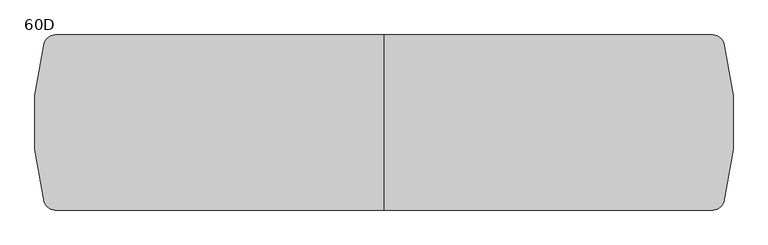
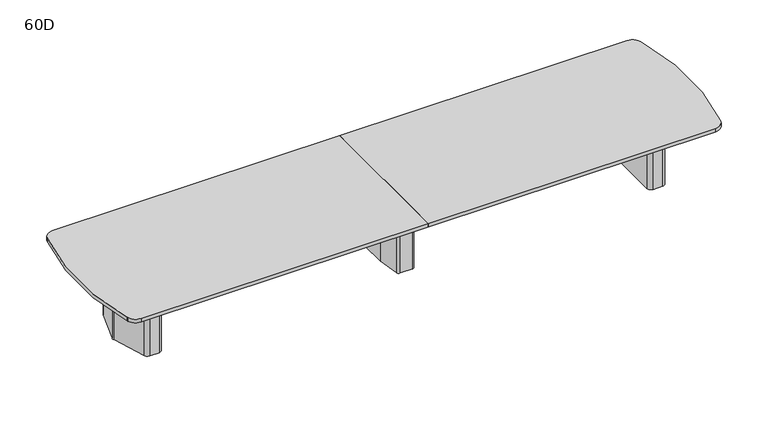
"""IFC4 building model written with IfcOpenShell, lengths in millimetres: furniture geometry, Coalesse_AM_Table_Conference_ETable2_SoftRadiused_20ft_ThreeBase : 60D."""

from ifc_helpers import new_model, si_unit, point, frame, frame_2d, origin, origin_with_axes, place, context, project, spatial, polyline, circle_curve, trimmed, segment, composite_curve, outline, extrude, source, transform, mapped, element, save
from ifc_brep_helpers import plane_surface, cylinder_surface, revolved_surface, advanced_brep


def furniture_60d_b1780d50(model_context):
    return source(origin(), model_context, "Body", "SolidModel", [
        advanced_brep(
        [(61.0357815, 381.0, 698.5), (-61.0357815, 381.0, 698.5), (-86.1885994, 359.1349332, 698.5), (-117.2278179, 138.2753661, 698.5), (-117.475, 134.740433, 698.5), (-117.475, -134.7404196, 698.5), (-117.2278463, -138.2751502, 698.5), (-86.1904395, -359.1347306, 698.5), (-61.0375932, -381.0, 698.5), (61.0375932, -381.0, 698.5), (86.1904395, -359.1347306, 698.5), (117.2278463, -138.2751502, 698.5), (117.475, -134.7404196, 698.5), (117.475, 134.740433, 698.5), (117.2278179, 138.2753661, 698.5), (86.1885994, 359.1349332, 698.5), (25.4, 314.325, 698.5), (50.8, 288.925, 698.5), (50.8, -288.925, 698.5), (25.4, -314.325, 698.5), (-25.4, -314.325, 698.5), (-50.8, -288.925, 698.5), (-50.8, 288.925, 698.5), (-25.4, 314.325, 698.5), (61.0357815, 381.0, 3.175), (86.1885994, 359.1349332, 3.175), (117.2278179, 138.2753661, 3.175), (117.475, 134.740433, 3.175), (117.475, -134.7404196, 3.175), (117.2278463, -138.2751502, 3.175), (86.1904395, -359.1347306, 3.175), (61.0375932, -381.0, 3.175), (-61.0375932, -381.0, 3.175), (-86.1904395, -359.1347306, 3.175), (-117.2278463, -138.2751502, 3.175), (-117.475, -134.7404196, 3.175), (-117.475, 134.740433, 3.175), (-117.2278179, 138.2753661, 3.175), (-86.1885994, 359.1349332, 3.175), (-61.0357815, 381.0, 3.175), (25.4, 327.025, 3.175), (-25.4, 327.025, 3.175), (-63.5, 288.925, 3.175), (-63.5, -288.925, 3.175), (-25.4, -327.025, 3.175), (25.4, -327.025, 3.175), (63.5, -288.925, 3.175), (63.5, 288.925, 3.175), (25.4, 314.325, 3.175), (50.8, 288.925, 3.175), (50.8, -288.925, 3.175), (25.4, -314.325, 3.175), (-25.4, -314.325, 3.175), (-50.8, -288.925, 3.175), (-50.8, 288.925, 3.175), (-25.4, 314.325, 3.175), (25.4, 327.025, 0.0), (63.5, 288.925, 0.0), (63.5, -288.925, 0.0), (25.4, -327.025, 0.0), (-25.4, -327.025, 0.0), (-63.5, -288.925, 0.0), (-63.5, 288.925, 0.0), (-25.4, 327.025, 0.0)],
        [
            (0, 1),
            (1, 2, circle_curve(frame((-61.0357815, 355.6, 698.5), z_axis=(0.0, 0.0, 1.0), x_axis=(1.0, 0.0, 0.0)), 25.4)),
            (2, 3),
            (3, 4, circle_curve(frame((-92.075, 134.740433, 698.5), z_axis=(0.0, 0.0, 1.0), x_axis=(1.0, 0.0, 0.0)), 25.4)),
            (4, 5),
            (5, 6, circle_curve(frame((-92.075, -134.7404196, 698.5), z_axis=(0.0, 0.0, 1.0), x_axis=(1.0, 0.0, 0.0)), 25.4)),
            (6, 7),
            (7, 8, circle_curve(frame((-61.0375932, -355.6, 698.5), z_axis=(0.0, 0.0, 1.0), x_axis=(1.0, 0.0, 0.0)), 25.4)),
            (8, 9),
            (9, 10, circle_curve(frame((61.0375932, -355.6, 698.5), z_axis=(0.0, 0.0, 1.0), x_axis=(1.0, 0.0, 0.0)), 25.4)),
            (10, 11),
            (11, 12, circle_curve(frame((92.075, -134.7404196, 698.5), z_axis=(0.0, 0.0, 1.0), x_axis=(1.0, 0.0, 0.0)), 25.4)),
            (12, 13),
            (13, 14, circle_curve(frame((92.075, 134.740433, 698.5), z_axis=(0.0, 0.0, 1.0), x_axis=(1.0, 0.0, 0.0)), 25.4)),
            (14, 15),
            (15, 0, circle_curve(frame((61.0357815, 355.6, 698.5), z_axis=(0.0, 0.0, 1.0), x_axis=(1.0, 0.0, 0.0)), 25.4)),
            (16, 17, circle_curve(frame((25.4, 288.925, 698.5), z_axis=(0.0, 0.0, -1.0), x_axis=(1.0, 0.0, 0.0)), 25.4)),
            (17, 18),
            (18, 19, circle_curve(frame((25.4, -288.925, 698.5), z_axis=(0.0, 0.0, -1.0), x_axis=(1.0, 0.0, 0.0)), 25.4)),
            (19, 20),
            (20, 21, circle_curve(frame((-25.4, -288.925, 698.5), z_axis=(0.0, 0.0, -1.0), x_axis=(1.0, 0.0, 0.0)), 25.4)),
            (21, 22),
            (22, 23, circle_curve(frame((-25.4, 288.925, 698.5), z_axis=(0.0, 0.0, -1.0), x_axis=(1.0, 0.0, 0.0)), 25.4)),
            (23, 16),
            (24, 25, circle_curve(frame((61.0357815, 355.6, 3.175), z_axis=(0.0, 0.0, -1.0), x_axis=(1.0, 0.0, 0.0)), 25.4)),
            (25, 26),
            (26, 27, circle_curve(frame((92.075, 134.740433, 3.175), z_axis=(0.0, 0.0, -1.0), x_axis=(1.0, 0.0, 0.0)), 25.4)),
            (27, 28),
            (28, 29, circle_curve(frame((92.075, -134.7404196, 3.175), z_axis=(0.0, 0.0, -1.0), x_axis=(1.0, 0.0, 0.0)), 25.4)),
            (29, 30),
            (30, 31, circle_curve(frame((61.0375932, -355.6, 3.175), z_axis=(0.0, 0.0, -1.0), x_axis=(1.0, 0.0, 0.0)), 25.4)),
            (31, 32),
            (32, 33, circle_curve(frame((-61.0375932, -355.6, 3.175), z_axis=(0.0, 0.0, -1.0), x_axis=(1.0, 0.0, 0.0)), 25.4)),
            (33, 34),
            (34, 35, circle_curve(frame((-92.075, -134.7404196, 3.175), z_axis=(0.0, 0.0, -1.0), x_axis=(1.0, 0.0, 0.0)), 25.4)),
            (35, 36),
            (36, 37, circle_curve(frame((-92.075, 134.740433, 3.175), z_axis=(0.0, 0.0, -1.0), x_axis=(1.0, 0.0, 0.0)), 25.4)),
            (37, 38),
            (38, 39, circle_curve(frame((-61.0357815, 355.6, 3.175), z_axis=(0.0, 0.0, -1.0), x_axis=(1.0, 0.0, 0.0)), 25.4)),
            (39, 24),
            (40, 41),
            (41, 42, circle_curve(frame((-25.4, 288.925, 3.175), z_axis=(0.0, 0.0, 1.0), x_axis=(1.0, 0.0, 0.0)), 38.1)),
            (42, 43),
            (43, 44, circle_curve(frame((-25.4, -288.925, 3.175), z_axis=(0.0, 0.0, 1.0), x_axis=(1.0, 0.0, 0.0)), 38.1)),
            (44, 45),
            (45, 46, circle_curve(frame((25.4, -288.925, 3.175), z_axis=(0.0, 0.0, 1.0), x_axis=(1.0, 0.0, 0.0)), 38.1)),
            (46, 47),
            (47, 40, circle_curve(frame((25.4, 288.925, 3.175), z_axis=(0.0, 0.0, 1.0), x_axis=(1.0, 0.0, 0.0)), 38.1)),
            (0, 24),
            (39, 1),
            (38, 2),
            (37, 3),
            (36, 4),
            (35, 5),
            (34, 6),
            (33, 7),
            (32, 8),
            (31, 9),
            (30, 10),
            (29, 11),
            (28, 12),
            (27, 13),
            (26, 14),
            (25, 15),
            (16, 48),
            (48, 49, circle_curve(frame((25.4, 288.925, 3.175), z_axis=(0.0, 0.0, -1.0), x_axis=(1.0, 0.0, 0.0)), 25.4)),
            (49, 17),
            (49, 50),
            (50, 18),
            (50, 51, circle_curve(frame((25.4, -288.925, 3.175), z_axis=(0.0, 0.0, -1.0), x_axis=(1.0, 0.0, 0.0)), 25.4)),
            (51, 19),
            (51, 52),
            (52, 20),
            (52, 53, circle_curve(frame((-25.4, -288.925, 3.175), z_axis=(0.0, 0.0, -1.0), x_axis=(1.0, 0.0, 0.0)), 25.4)),
            (53, 21),
            (53, 54),
            (54, 22),
            (54, 55, circle_curve(frame((-25.4, 288.925, 3.175), z_axis=(0.0, 0.0, -1.0), x_axis=(1.0, 0.0, 0.0)), 25.4)),
            (55, 23),
            (55, 48),
            (56, 57, circle_curve(frame((25.4, 288.925, 0.0), z_axis=(0.0, 0.0, -1.0), x_axis=(1.0, 0.0, 0.0)), 38.1)),
            (57, 58),
            (58, 59, circle_curve(frame((25.4, -288.925, 0.0), z_axis=(0.0, 0.0, -1.0), x_axis=(1.0, 0.0, 0.0)), 38.1)),
            (59, 60),
            (60, 61, circle_curve(frame((-25.4, -288.925, 0.0), z_axis=(0.0, 0.0, -1.0), x_axis=(1.0, 0.0, 0.0)), 38.1)),
            (61, 62),
            (62, 63, circle_curve(frame((-25.4, 288.925, 0.0), z_axis=(0.0, 0.0, -1.0), x_axis=(1.0, 0.0, 0.0)), 38.1)),
            (63, 56),
            (63, 41),
            (40, 56),
            (62, 42),
            (61, 43),
            (60, 44),
            (59, 45),
            (58, 46),
            (57, 47),
        ],
        [
            plane_surface(frame((-1524.0, 381.0, 698.5), z_axis=(0.0, 0.0, 1.0), x_axis=(-1.0, 0.0, 0.0))),
            plane_surface(frame((-1524.0, 381.0, 3.175), z_axis=(0.0, 0.0, -1.0), x_axis=(1.0, 0.0, 0.0))),
            plane_surface(frame((61.0357815, 381.0, 698.5), z_axis=(0.0, 1.0, 0.0), x_axis=(0.0, 0.0, -1.0))),
            cylinder_surface(frame((-61.0357815, 355.6, 3.175), z_axis=(0.0, 0.0, 1.0), x_axis=(1.0, 0.0, 0.0)), 25.4),
            plane_surface(frame((-86.1885994, 359.1349332, 698.5), z_axis=(-0.9902684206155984, 0.13917059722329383, 0.0), x_axis=(0.0, 0.0, -1.0))),
            cylinder_surface(frame((-92.075, 134.740433, 3.175), z_axis=(0.0, 0.0, 1.0), x_axis=(1.0, 0.0, 0.0)), 25.4),
            plane_surface(frame((-117.475, 134.740433, 698.5), z_axis=(-1.0, 0.0, 0.0), x_axis=(0.0, 0.0, -1.0))),
            cylinder_surface(frame((-92.075, -134.7404196, 3.175), z_axis=(0.0, 0.0, 1.0), x_axis=(1.0, 0.0, 0.0)), 25.4),
            plane_surface(frame((-117.2278463, -138.2751502, 698.5), z_axis=(-0.9902695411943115, -0.1391626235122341, 0.0), x_axis=(0.0, 0.0, -1.0))),
            cylinder_surface(frame((-61.0375932, -355.6, 3.175), z_axis=(0.0, 0.0, 1.0), x_axis=(1.0, 0.0, 0.0)), 25.4),
            plane_surface(frame((-61.0375932, -381.0, 698.5), z_axis=(0.0, -1.0, 0.0), x_axis=(0.0, 0.0, -1.0))),
            cylinder_surface(frame((61.0375932, -355.6, 3.175), z_axis=(0.0, 0.0, 1.0), x_axis=(1.0, 0.0, 0.0)), 25.4),
            plane_surface(frame((86.1904395, -359.1347306, 698.5), z_axis=(0.9902695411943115, -0.1391626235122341, 0.0), x_axis=(0.0, 0.0, -1.0))),
            cylinder_surface(frame((92.075, -134.7404196, 3.175), z_axis=(0.0, 0.0, 1.0), x_axis=(1.0, 0.0, 0.0)), 25.4),
            plane_surface(frame((117.475, -134.7404196, 698.5), z_axis=(1.0, 0.0, 0.0), x_axis=(0.0, 0.0, -1.0))),
            cylinder_surface(frame((92.075, 134.740433, 3.175), z_axis=(0.0, 0.0, 1.0), x_axis=(1.0, 0.0, 0.0)), 25.4),
            plane_surface(frame((117.2278179, 138.2753661, 698.5), z_axis=(0.9902684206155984, 0.13917059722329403, 0.0), x_axis=(0.0, 0.0, -1.0))),
            cylinder_surface(frame((61.0357815, 355.6, 3.175), z_axis=(0.0, 0.0, 1.0), x_axis=(1.0, 0.0, 0.0)), 25.4),
            revolved_surface(polyline([(50.8, 288.925, 3.175), (50.8, 288.925, 698.5)]), (25.4, 288.925, 0.0), (0.0, 0.0, -1.0)),
            plane_surface(frame((50.8, 288.925, 698.5), z_axis=(-1.0, 0.0, 0.0), x_axis=(0.0, 0.0, -1.0))),
            revolved_surface(polyline([(50.8, -288.925, 3.175), (50.8, -288.925, 698.5)]), (25.4, -288.925, 0.0), (0.0, 0.0, -1.0)),
            plane_surface(frame((25.4, -314.325, 698.5), z_axis=(0.0, 1.0, 0.0), x_axis=(0.0, 0.0, -1.0))),
            revolved_surface(polyline([(0.0, -288.925, 3.175), (0.0, -288.925, 698.5)]), (-25.4, -288.925, 0.0), (0.0, 0.0, -1.0)),
            plane_surface(frame((-50.8, -288.925, 698.5), z_axis=(1.0, 0.0, 0.0), x_axis=(0.0, 0.0, -1.0))),
            revolved_surface(polyline([(0.0, 288.925, 3.175), (0.0, 288.925, 698.5)]), (-25.4, 288.925, 0.0), (0.0, 0.0, -1.0)),
            plane_surface(frame((-25.4, 314.325, 698.5), z_axis=(0.0, -1.0, 0.0), x_axis=(0.0, 0.0, -1.0))),
            plane_surface(frame((-50.8, 327.025, 3.175), z_axis=(0.0, 0.0, 1.0), x_axis=(-1.0, 0.0, 0.0))),
            plane_surface(frame((-50.8, 327.025, 0.0), z_axis=(0.0, 0.0, -1.0), x_axis=(1.0, 0.0, 0.0))),
            plane_surface(frame((25.4, 327.025, 3.175), z_axis=(0.0, 1.0, 0.0), x_axis=(0.0, 0.0, -1.0))),
            cylinder_surface(frame((-25.4, 288.925, 0.0), z_axis=(0.0, 0.0, 1.0), x_axis=(1.0, 0.0, 0.0)), 38.1),
            plane_surface(frame((-63.5, 288.925, 3.175), z_axis=(-1.0, 0.0, 0.0), x_axis=(0.0, 0.0, -1.0))),
            cylinder_surface(frame((-25.4, -288.925, 0.0), z_axis=(0.0, 0.0, 1.0), x_axis=(1.0, 0.0, 0.0)), 38.1),
            plane_surface(frame((-25.4, -327.025, 3.175), z_axis=(0.0, -1.0, 0.0), x_axis=(0.0, 0.0, -1.0))),
            cylinder_surface(frame((25.4, -288.925, 0.0), z_axis=(0.0, 0.0, 1.0), x_axis=(1.0, 0.0, 0.0)), 38.1),
            plane_surface(frame((63.5, -288.925, 3.175), z_axis=(1.0, 0.0, 0.0), x_axis=(0.0, 0.0, -1.0))),
            cylinder_surface(frame((25.4, 288.925, 0.0), z_axis=(0.0, 0.0, 1.0), x_axis=(1.0, 0.0, 0.0)), 38.1),
        ],
        [
            (0, [[1, 2, 3, 4, 5, 6, 7, 8, 9, 10, 11, 12, 13, 14, 15, 16], [17, 18, 19, 20, 21, 22, 23, 24]]),
            (1, [[25, 26, 27, 28, 29, 30, 31, 32, 33, 34, 35, 36, 37, 38, 39, 40], [41, 42, 43, 44, 45, 46, 47, 48]]),
            (2, [[-1, 49, -40, 50]]),
            (3, [[-2, -50, -39, 51]]),
            (4, [[-3, -51, -38, 52]]),
            (5, [[-4, -52, -37, 53]]),
            (6, [[-5, -53, -36, 54]]),
            (7, [[-6, -54, -35, 55]]),
            (8, [[-7, -55, -34, 56]]),
            (9, [[-8, -56, -33, 57]]),
            (10, [[-9, -57, -32, 58]]),
            (11, [[-10, -58, -31, 59]]),
            (12, [[-11, -59, -30, 60]]),
            (13, [[-12, -60, -29, 61]]),
            (14, [[-13, -61, -28, 62]]),
            (15, [[-14, -62, -27, 63]]),
            (16, [[-15, -63, -26, 64]]),
            (17, [[-16, -64, -25, -49]]),
            (18, [[-17, 65, 66, 67]]),
            (19, [[-18, -67, 68, 69]]),
            (20, [[-19, -69, 70, 71]]),
            (21, [[-20, -71, 72, 73]]),
            (22, [[-21, -73, 74, 75]]),
            (23, [[-22, -75, 76, 77]]),
            (24, [[-23, -77, 78, 79]]),
            (25, [[-24, -79, 80, -65]]),
            (26, [[-66, -80, -78, -76, -74, -72, -70, -68]]),
            (27, [[81, 82, 83, 84, 85, 86, 87, 88]]),
            (28, [[-88, 89, -41, 90]]),
            (29, [[-87, 91, -42, -89]]),
            (30, [[-86, 92, -43, -91]]),
            (31, [[-85, 93, -44, -92]]),
            (32, [[-84, 94, -45, -93]]),
            (33, [[-83, 95, -46, -94]]),
            (34, [[-82, 96, -47, -95]]),
            (35, [[-81, -90, -48, -96]]),
        ],
    ),
        extrude(outline(composite_curve([segment(polyline([(2646.3625, 101.7236478), (2646.3625, -97.2761514)]), True, "CONTINUOUS"), segment(trimmed(circle_curve(frame_2d((2608.2625, -97.2761514)), 38.1), [point((2646.3625, -97.2761514))], [point((2644.5991129, -108.7330515))], False, "CARTESIAN"), True, "CONTINUOUS"), segment(polyline([(2644.5991129, -108.7330515), (2586.1745591, -294.0319001)]), True, "CONTINUOUS"), segment(trimmed(circle_curve(frame_2d((2549.8379462, -282.575)), 38.1), [point((2586.1745591, -294.0319001))], [point((2549.8379462, -320.675))], False, "CARTESIAN"), True, "CONTINUOUS"), segment(polyline([(2549.8379462, -320.675), (2482.85, -320.675)]), True, "CONTINUOUS"), segment(trimmed(circle_curve(frame_2d((2482.85, -282.575)), 38.1), [point((2482.85, -320.675))], [point((2444.75, -282.575))], False, "CARTESIAN"), True, "CONTINUOUS"), segment(polyline([(2444.75, -282.575), (2444.75, 282.575)]), True, "CONTINUOUS"), segment(trimmed(circle_curve(frame_2d((2482.85, 282.575)), 38.1), [point((2444.75, 282.575))], [point((2482.85, 320.675))], False, "CARTESIAN"), True, "CONTINUOUS"), segment(polyline([(2482.85, 320.675), (2553.5873998, 320.675)]), True, "CONTINUOUS"), segment(trimmed(circle_curve(frame_2d((2553.5873998, 282.575)), 38.1), [point((2553.5873998, 320.675))], [point((2590.0572049, 293.6005756))], False, "CARTESIAN"), True, "CONTINUOUS"), segment(polyline([(2590.0572049, 293.6005756), (2644.7323051, 112.7492234)]), True, "CONTINUOUS"), segment(trimmed(circle_curve(frame_2d((2608.2625, 101.7236478)), 38.1), [point((2644.7323051, 112.7492234))], [point((2646.3625, 101.7236478))], False, "CARTESIAN"), True, "CONTINUOUS")], self_intersect=False)), origin_with_axes(), (0.0, 0.0, 1.0), 3.175),
        extrude(outline(composite_curve([segment(polyline([(2466.975, 381.0), (2555.1221663, 381.0)]), True, "CONTINUOUS"), segment(trimmed(circle_curve(frame_2d((2555.1221663, 339.725)), 41.275), [point((2555.1221663, 381.0))], [point((2594.4868303, 352.1366418))], False, "CARTESIAN"), True, "CONTINUOUS"), segment(polyline([(2594.4868303, 352.1366418), (2701.6018053, 12.4116418)]), True, "CONTINUOUS"), segment(trimmed(circle_curve(frame_2d((2662.2371413, 0.0)), 41.275), [point((2701.6018053, 12.4116418))], [point((2701.6018053, -12.4116418))], False, "CARTESIAN"), True, "CONTINUOUS"), segment(polyline([(2701.6018053, -12.4116418), (2594.4868303, -352.1366418)]), True, "CONTINUOUS"), segment(trimmed(circle_curve(frame_2d((2555.1221663, -339.725)), 41.275), [point((2594.4868303, -352.1366418))], [point((2555.1221663, -381.0))], False, "CARTESIAN"), True, "CONTINUOUS"), segment(polyline([(2555.1221663, -381.0), (2460.625, -381.0)]), True, "CONTINUOUS"), segment(trimmed(circle_curve(frame_2d((2460.625, -339.725)), 41.275), [point((2460.625, -381.0))], [point((2419.35, -339.725))], False, "CARTESIAN"), True, "CONTINUOUS"), segment(polyline([(2419.35, -339.725), (2419.35, 333.375)]), True, "CONTINUOUS"), segment(trimmed(circle_curve(frame_2d((2466.975, 333.375)), 47.625), [point((2419.35, 333.375))], [point((2466.975, 381.0))], False, "CARTESIAN"), True, "CONTINUOUS")], self_intersect=False), holes=[composite_curve([segment(trimmed(circle_curve(frame_2d((2482.85, -282.575)), 25.4), [point((2457.45, -282.575))], [point((2482.85, -307.975))], True, "CARTESIAN"), True, "CONTINUOUS"), segment(polyline([(2482.85, -307.975), (2549.8379462, -307.975)]), True, "CONTINUOUS"), segment(trimmed(circle_curve(frame_2d((2549.8379462, -282.575)), 25.4), [point((2549.8379462, -307.975))], [point((2574.0623548, -290.2129334))], True, "CARTESIAN"), True, "CONTINUOUS"), segment(polyline([(2574.0623548, -290.2129334), (2632.4869086, -104.9140848)]), True, "CONTINUOUS"), segment(trimmed(circle_curve(frame_2d((2608.2625, -97.2761514)), 25.4), [point((2632.4869086, -104.9140848))], [point((2633.6625, -97.2761514))], True, "CARTESIAN"), True, "CONTINUOUS"), segment(polyline([(2633.6625, -97.2761514), (2633.6625, 101.7236478)]), True, "CONTINUOUS"), segment(trimmed(circle_curve(frame_2d((2608.2625, 101.7236478)), 25.4), [point((2633.6625, 101.7236478))], [point((2632.5757034, 109.0740316))], True, "CARTESIAN"), True, "CONTINUOUS"), segment(polyline([(2632.5757034, 109.0740316), (2577.9006032, 289.9253837)]), True, "CONTINUOUS"), segment(trimmed(circle_curve(frame_2d((2553.5873998, 282.575)), 25.4), [point((2577.9006032, 289.9253837))], [point((2553.5873998, 307.975))], True, "CARTESIAN"), True, "CONTINUOUS"), segment(polyline([(2553.5873998, 307.975), (2482.85, 307.975)]), True, "CONTINUOUS"), segment(trimmed(circle_curve(frame_2d((2482.85, 282.575)), 25.4), [point((2482.85, 307.975))], [point((2457.45, 282.575))], True, "CARTESIAN"), True, "CONTINUOUS"), segment(polyline([(2457.45, 282.575), (2457.45, -282.575)]), True, "CONTINUOUS")], self_intersect=False)]), frame((0.0, 0.0, 3.175), z_axis=(0.0, 0.0, 1.0), x_axis=(1.0, 0.0, 0.0)), (0.0, 0.0, 1.0), 695.325),
        extrude(outline(composite_curve([segment(trimmed(circle_curve(frame_2d((-2608.2625, 101.7236478)), 38.1), [point((-2646.3625, 101.7236478))], [point((-2644.7323051, 112.7492234))], False, "CARTESIAN"), True, "CONTINUOUS"), segment(polyline([(-2644.7323051, 112.7492234), (-2590.0572049, 293.6005756)]), True, "CONTINUOUS"), segment(trimmed(circle_curve(frame_2d((-2553.5873998, 282.575)), 38.1), [point((-2590.0572049, 293.6005756))], [point((-2553.5873998, 320.675))], False, "CARTESIAN"), True, "CONTINUOUS"), segment(polyline([(-2553.5873998, 320.675), (-2482.85, 320.675)]), True, "CONTINUOUS"), segment(trimmed(circle_curve(frame_2d((-2482.85, 282.575)), 38.1), [point((-2482.85, 320.675))], [point((-2444.75, 282.575))], False, "CARTESIAN"), True, "CONTINUOUS"), segment(polyline([(-2444.75, 282.575), (-2444.75, -282.575)]), True, "CONTINUOUS"), segment(trimmed(circle_curve(frame_2d((-2482.85, -282.575)), 38.1), [point((-2444.75, -282.575))], [point((-2482.85, -320.675))], False, "CARTESIAN"), True, "CONTINUOUS"), segment(polyline([(-2482.85, -320.675), (-2549.8379462, -320.675)]), True, "CONTINUOUS"), segment(trimmed(circle_curve(frame_2d((-2549.8379462, -282.575)), 38.1), [point((-2549.8379462, -320.675))], [point((-2586.1745591, -294.0319001))], False, "CARTESIAN"), True, "CONTINUOUS"), segment(polyline([(-2586.1745591, -294.0319001), (-2644.5991129, -108.7330515)]), True, "CONTINUOUS"), segment(trimmed(circle_curve(frame_2d((-2608.2625, -97.2761514)), 38.1), [point((-2644.5991129, -108.7330515))], [point((-2646.3625, -97.2761514))], False, "CARTESIAN"), True, "CONTINUOUS"), segment(polyline([(-2646.3625, -97.2761514), (-2646.3625, 101.7236478)]), True, "CONTINUOUS")], self_intersect=False)), origin_with_axes(), (0.0, 0.0, 1.0), 3.175),
        extrude(outline(composite_curve([segment(trimmed(circle_curve(frame_2d((-2466.975, 333.375)), 47.625), [point((-2466.975, 381.0))], [point((-2419.35, 333.375))], False, "CARTESIAN"), True, "CONTINUOUS"), segment(polyline([(-2419.35, 333.375), (-2419.35, -339.725)]), True, "CONTINUOUS"), segment(trimmed(circle_curve(frame_2d((-2460.625, -339.725)), 41.275), [point((-2419.35, -339.725))], [point((-2460.625, -381.0))], False, "CARTESIAN"), True, "CONTINUOUS"), segment(polyline([(-2460.625, -381.0), (-2555.1221663, -381.0)]), True, "CONTINUOUS"), segment(trimmed(circle_curve(frame_2d((-2555.1221663, -339.725)), 41.275), [point((-2555.1221663, -381.0))], [point((-2594.4868303, -352.1366418))], False, "CARTESIAN"), True, "CONTINUOUS"), segment(polyline([(-2594.4868303, -352.1366418), (-2701.6018053, -12.4116418)]), True, "CONTINUOUS"), segment(trimmed(circle_curve(frame_2d((-2662.2371413, 0.0)), 41.275), [point((-2701.6018053, -12.4116418))], [point((-2701.6018053, 12.4116418))], False, "CARTESIAN"), True, "CONTINUOUS"), segment(polyline([(-2701.6018053, 12.4116418), (-2594.4868303, 352.1366418)]), True, "CONTINUOUS"), segment(trimmed(circle_curve(frame_2d((-2555.1221663, 339.725)), 41.275), [point((-2594.4868303, 352.1366418))], [point((-2555.1221663, 381.0))], False, "CARTESIAN"), True, "CONTINUOUS"), segment(polyline([(-2555.1221663, 381.0), (-2466.975, 381.0)]), True, "CONTINUOUS")], self_intersect=False), holes=[composite_curve([segment(polyline([(-2457.45, -282.575), (-2457.45, 282.575)]), True, "CONTINUOUS"), segment(trimmed(circle_curve(frame_2d((-2482.85, 282.575)), 25.4), [point((-2457.45, 282.575))], [point((-2482.85, 307.975))], True, "CARTESIAN"), True, "CONTINUOUS"), segment(polyline([(-2482.85, 307.975), (-2553.5873998, 307.975)]), True, "CONTINUOUS"), segment(trimmed(circle_curve(frame_2d((-2553.5873998, 282.575)), 25.4), [point((-2553.5873998, 307.975))], [point((-2577.9006032, 289.9253837))], True, "CARTESIAN"), True, "CONTINUOUS"), segment(polyline([(-2577.9006032, 289.9253837), (-2632.5757034, 109.0740316)]), True, "CONTINUOUS"), segment(trimmed(circle_curve(frame_2d((-2608.2625, 101.7236478)), 25.4), [point((-2632.5757034, 109.0740316))], [point((-2633.6625, 101.7236478))], True, "CARTESIAN"), True, "CONTINUOUS"), segment(polyline([(-2633.6625, 101.7236478), (-2633.6625, -97.2761514)]), True, "CONTINUOUS"), segment(trimmed(circle_curve(frame_2d((-2608.2625, -97.2761514)), 25.4), [point((-2633.6625, -97.2761514))], [point((-2632.4869086, -104.9140848))], True, "CARTESIAN"), True, "CONTINUOUS"), segment(polyline([(-2632.4869086, -104.9140848), (-2574.0623548, -290.2129334)]), True, "CONTINUOUS"), segment(trimmed(circle_curve(frame_2d((-2549.8379462, -282.575)), 25.4), [point((-2574.0623548, -290.2129334))], [point((-2549.8379462, -307.975))], True, "CARTESIAN"), True, "CONTINUOUS"), segment(polyline([(-2549.8379462, -307.975), (-2482.85, -307.975)]), True, "CONTINUOUS"), segment(trimmed(circle_curve(frame_2d((-2482.85, -282.575)), 25.4), [point((-2482.85, -307.975))], [point((-2457.45, -282.575))], True, "CARTESIAN"), True, "CONTINUOUS")], self_intersect=False)]), frame((0.0, 0.0, 3.175), z_axis=(0.0, 0.0, 1.0), x_axis=(1.0, 0.0, 0.0)), (0.0, 0.0, 1.0), 695.325),
        extrude(outline(composite_curve([segment(trimmed(circle_curve(frame_2d((2858.8557965, 660.4)), 101.6), [point((2858.8557965, 762.0))], [point((2954.6453259, 694.2662966))], False, "CARTESIAN"), True, "CONTINUOUS"), segment(polyline([(2954.6453259, 694.2662966), (2955.3956256, 692.1441026)]), True, "CONTINUOUS"), segment(trimmed(circle_curve(frame_2d((415.0842649, 0.0)), 2632.9157351), [point((2955.3956256, 692.1441026))], [point((2955.3956256, -692.1441026))], False, "CARTESIAN"), True, "CONTINUOUS"), segment(polyline([(2955.3956256, -692.1441026), (2954.6453259, -694.2662966)]), True, "CONTINUOUS"), segment(trimmed(circle_curve(frame_2d((2858.8557965, -660.4)), 101.6), [point((2954.6453259, -694.2662966))], [point((2858.8557965, -762.0))], False, "CARTESIAN"), True, "CONTINUOUS"), segment(polyline([(2858.8557965, -762.0), (0.0, -762.0), (0.0, 762.0), (2858.8557965, 762.0)]), True, "CONTINUOUS")], self_intersect=False)), frame((0.0, 0.0, 698.5), z_axis=(0.0, 0.0, 1.0), x_axis=(1.0, 0.0, 0.0)), (0.0, 0.0, 1.0), 38.1),
        extrude(outline(composite_curve([segment(polyline([(-2858.8557965, 762.0), (0.0, 762.0), (0.0, -762.0), (-2858.8557965, -762.0)]), True, "CONTINUOUS"), segment(trimmed(circle_curve(frame_2d((-2858.8557965, -660.4)), 101.6), [point((-2858.8557965, -762.0))], [point((-2954.6453259, -694.2662966))], False, "CARTESIAN"), True, "CONTINUOUS"), segment(polyline([(-2954.6453259, -694.2662966), (-2955.3956256, -692.1441026)]), True, "CONTINUOUS"), segment(trimmed(circle_curve(frame_2d((-415.0842649, 0.0)), 2632.9157351), [point((-2955.3956256, -692.1441026))], [point((-2955.3956256, 692.1441026))], False, "CARTESIAN"), True, "CONTINUOUS"), segment(polyline([(-2955.3956256, 692.1441026), (-2954.6453259, 694.2662966)]), True, "CONTINUOUS"), segment(trimmed(circle_curve(frame_2d((-2858.8557965, 660.4)), 101.6), [point((-2954.6453259, 694.2662966))], [point((-2858.8557965, 762.0))], False, "CARTESIAN"), True, "CONTINUOUS")], self_intersect=False)), frame((0.0, 0.0, 698.5), z_axis=(0.0, 0.0, 1.0), x_axis=(1.0, 0.0, 0.0)), (0.0, 0.0, 1.0), 38.1),
        extrude(outline(polyline([(96.8375, 698.5), (103.1875, 698.5), (103.1875, 476.25), (-103.1875, 476.25), (-103.1875, 698.5), (-96.8375, 698.5), (-96.8375, 482.6), (96.8375, 482.6), (96.8375, 698.5)])), frame((-2419.35, 0.0, 0.0), z_axis=(1.0, 0.0, 0.0), x_axis=(0.0, 1.0, 0.0)), (0.0, 0.0, 1.0), 4838.7),
    ])


if __name__ == "__main__":
    model = new_model("IFC4")
    model_context = context("Model", 3, world=origin())
    ifc_project = project(units=[si_unit("LENGTHUNIT", "METRE", prefix="MILLI")], contexts=[model_context])
    site = spatial("IfcSite", under=ifc_project)
    building = spatial("IfcBuilding", under=site)
    placement = place(None, origin())
    furniture_60d_shape = furniture_60d_b1780d50(model_context)
    element("IfcFurniture", 1, ObjectType="Coalesse_AM_Table_Conference_ETable2_SoftRadiused_20ft_ThreeBase : 60D", at=placement, inside=building, context=model_context, shape_type="MappedRepresentation", body=[
        mapped(furniture_60d_shape, transform((0.0, 0.0, 0.0), x_axis=(1.0, 0.0, 0.0), y_axis=(0.0, 1.0, 0.0), z_axis=(0.0, 0.0, 1.0))),
    ])
    save(model, "model.ifc")
